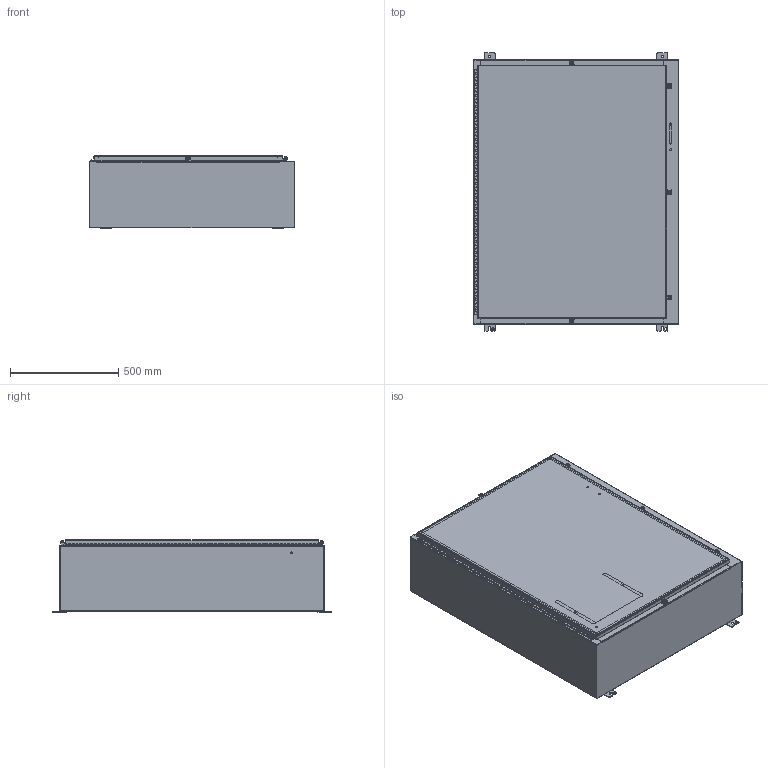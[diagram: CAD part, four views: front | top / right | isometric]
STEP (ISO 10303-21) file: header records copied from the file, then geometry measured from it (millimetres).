
FILE_DESCRIPTION((''),'2;1');
FILE_NAME('MODEL-316_ASM','2021-05-17T10:55:14',('mikek'),('SAGINAW CONTROL & ENGINEERING'),'CREO PARAMETRIC BY PTC INC, 2017260','CREO PARAMETRIC BY PTC INC, 2017260','');
FILE_SCHEMA(('AUTOMOTIVE_DESIGN { 1 0 10303 214 1 1 1 1 }'));
Length unit declared in the file: inch
Products named in the file (27): MODEL-316-BDY; MODEL-316-TP; MODEL-316-BTM; MODEL-316-DR; 100837; 100882; 111267; 118923_DR; 118923_PIN; 118923_BX; 118923_STUD; 118923_ASM; 100897; MODEL-316-GSKT; MODEL-316-DOOR-ASSEMBLY_ASM; 102211; 101653; 121454; 102022; 120131_BASE; 120131_CLAMP; 120131_SCREW; 120131_ASM; SUBPANEL; 100904; SUBPANEL-SUBASSEMBLY_ASM; MODEL-316_ASM
Assembly tree (70 placements, depth 4):
  MODEL-316_ASM
    MODEL-316-BDY
    MODEL-316-TP
    MODEL-316-BTM
    MODEL-316-DOOR-ASSEMBLY_ASM
      MODEL-316-DR
      100837  x5
      100882  x2
      111267
      118923_ASM
        118923_DR
        118923_PIN
        118923_BX
        118923_STUD  x7
      100897  x7
      MODEL-316-GSKT
    102211  x4
    100837
    101653  x8
    121454
    102022
    120131_ASM  x5
      120131_BASE
      120131_CLAMP
      120131_SCREW
    100882  x5
    SUBPANEL-SUBASSEMBLY_ASM
      SUBPANEL
      100904  x8
Bounding box: 949.33 x 1282.7 x 335.36 mm (x, y, z)
Volume: 11283572 mm3; surface area: 10296138 mm2
Topology: 72 solids, 72 shells, 5318 faces, 13792 edges, 8681 vertices
Faces by surface type: plane 2144, bspline 1394, cylinder 1140, torus 326, sphere 178, cone 136
Entity records: 100597 total; most frequent: CARTESIAN_POINT 29719, ORIENTED_EDGE 10320, DIRECTION 9398, PRESENTATION_STYLE_ASSIGNMENT 5285, STYLED_ITEM 5285, CURVE_STYLE 5160, EDGE_CURVE 5160, VERTEX_POINT 3253
